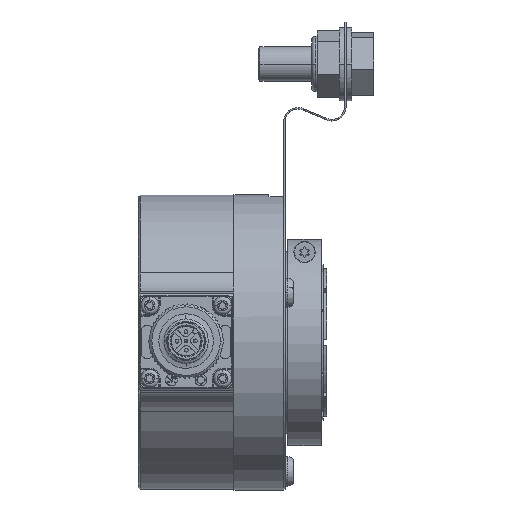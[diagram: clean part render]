
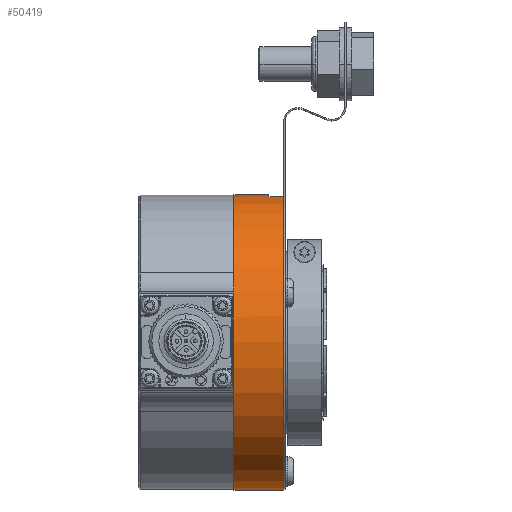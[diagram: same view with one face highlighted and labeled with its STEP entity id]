
A CAD part, top view. The second image highlights one B-rep face of the part: STEP entity #50419.
In plain terms, the highlighted cylindrical face has radius 40.075 mm (diameter 80.15 mm), a partial arc.
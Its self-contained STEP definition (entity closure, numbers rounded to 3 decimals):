
#251 = EDGE_CURVE ( 'NONE', #46405, #17382, #32381, .T. ) ;
#530 = VECTOR ( 'NONE', #42786, 1000. ) ;
#1877 = LINE ( 'NONE', #15514, #530 ) ;
#3148 = DIRECTION ( 'NONE',  ( -1., 0., 0. ) ) ;
#7601 = CARTESIAN_POINT ( 'NONE',  ( -12.775, 39.468, 6.95 ) ) ;
#7631 = CARTESIAN_POINT ( 'NONE',  ( -12.775, 0., 0. ) ) ;
#8063 = CARTESIAN_POINT ( 'NONE',  ( 13.5, 39.468, 6.95 ) ) ;
#13108 = CIRCLE ( 'NONE', #46254, 40.075 ) ;
#13287 = CIRCLE ( 'NONE', #38851, 40.075 ) ;
#13578 = DIRECTION ( 'NONE',  ( -1., 0., 0. ) ) ;
#13711 = CARTESIAN_POINT ( 'NONE',  ( 9.5, 39.468, 6.95 ) ) ;
#14067 = DIRECTION ( 'NONE',  ( 0., 1., 0. ) ) ;
#14879 = CARTESIAN_POINT ( 'NONE',  ( 0., 0., 0. ) ) ;
#15175 = VECTOR ( 'NONE', #27434, 1000. ) ;
#15514 = CARTESIAN_POINT ( 'NONE',  ( -12.775, -40.075, 0. ) ) ;
#17382 = VERTEX_POINT ( 'NONE', #56968 ) ;
#17403 = DIRECTION ( 'NONE',  ( -1., 0., 0. ) ) ;
#17847 = EDGE_CURVE ( 'NONE', #33893, #32440, #13287, .T. ) ;
#18356 = EDGE_CURVE ( 'NONE', #32440, #45833, #20953, .T. ) ;
#18626 = CARTESIAN_POINT ( 'NONE',  ( 9.5, 0., 0. ) ) ;
#19320 = DIRECTION ( 'NONE',  ( 0., 1., 0. ) ) ;
#20953 = LINE ( 'NONE', #7601, #32288 ) ;
#21839 = EDGE_CURVE ( 'NONE', #33893, #46405, #1877, .T. ) ;
#22412 = CARTESIAN_POINT ( 'NONE',  ( -12.775, 40.075, 0. ) ) ;
#22480 = AXIS2_PLACEMENT_3D ( 'NONE', #7631, #17403, #14067 ) ;
#24304 = CARTESIAN_POINT ( 'NONE',  ( 0., -40.075, 0. ) ) ;
#26132 = ORIENTED_EDGE ( 'NONE', *, *, #52714, .T. ) ;
#26269 = EDGE_LOOP ( 'NONE', ( #26561, #55924, #30812, #26132, #48253, #56074 ) ) ;
#26561 = ORIENTED_EDGE ( 'NONE', *, *, #21839, .F. ) ;
#27400 = DIRECTION ( 'NONE',  ( -1., 0., 0. ) ) ;
#27434 = DIRECTION ( 'NONE',  ( -1., 0., 0. ) ) ;
#27642 = EDGE_CURVE ( 'NONE', #35279, #17382, #31297, .T. ) ;
#30812 = ORIENTED_EDGE ( 'NONE', *, *, #18356, .T. ) ;
#31297 = LINE ( 'NONE', #22412, #15175 ) ;
#32147 = DIRECTION ( 'NONE',  ( 0., 1., 0. ) ) ;
#32246 = DIRECTION ( 'NONE',  ( 0., 1., 0. ) ) ;
#32288 = VECTOR ( 'NONE', #3148, 1000. ) ;
#32381 = CIRCLE ( 'NONE', #46598, 40.075 ) ;
#32440 = VERTEX_POINT ( 'NONE', #8063 ) ;
#32966 = CARTESIAN_POINT ( 'NONE',  ( 13.5, -40.075, 0. ) ) ;
#33893 = VERTEX_POINT ( 'NONE', #32966 ) ;
#35169 = FACE_OUTER_BOUND ( 'NONE', #26269, .T. ) ;
#35279 = VERTEX_POINT ( 'NONE', #56486 ) ;
#38851 = AXIS2_PLACEMENT_3D ( 'NONE', #49953, #27400, #32147 ) ;
#42786 = DIRECTION ( 'NONE',  ( -1., 0., 0. ) ) ;
#45833 = VERTEX_POINT ( 'NONE', #13711 ) ;
#46254 = AXIS2_PLACEMENT_3D ( 'NONE', #18626, #13578, #32246 ) ;
#46405 = VERTEX_POINT ( 'NONE', #24304 ) ;
#46598 = AXIS2_PLACEMENT_3D ( 'NONE', #14879, #51625, #19320 ) ;
#48253 = ORIENTED_EDGE ( 'NONE', *, *, #27642, .T. ) ;
#49953 = CARTESIAN_POINT ( 'NONE',  ( 13.5, 0., 0. ) ) ;
#50228 = CYLINDRICAL_SURFACE ( 'NONE', #22480, 40.075 ) ;
#50419 = ADVANCED_FACE ( 'NONE', ( #35169 ), #50228, .T. ) ;
#51625 = DIRECTION ( 'NONE',  ( -1., 0., 0. ) ) ;
#52714 = EDGE_CURVE ( 'NONE', #45833, #35279, #13108, .T. ) ;
#55924 = ORIENTED_EDGE ( 'NONE', *, *, #17847, .T. ) ;
#56074 = ORIENTED_EDGE ( 'NONE', *, *, #251, .F. ) ;
#56486 = CARTESIAN_POINT ( 'NONE',  ( 9.5, 40.075, 0. ) ) ;
#56968 = CARTESIAN_POINT ( 'NONE',  ( 0., 40.075, 0. ) ) ;
